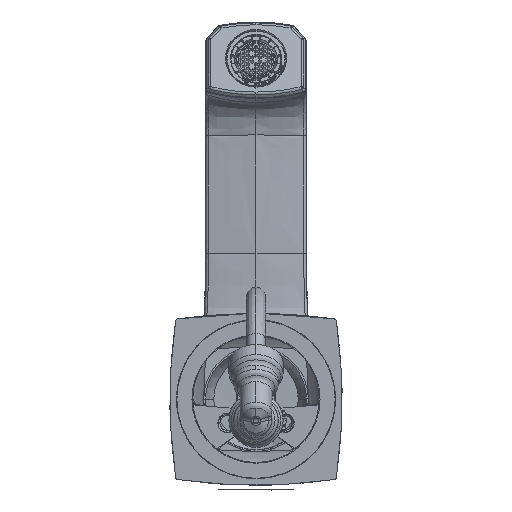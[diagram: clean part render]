
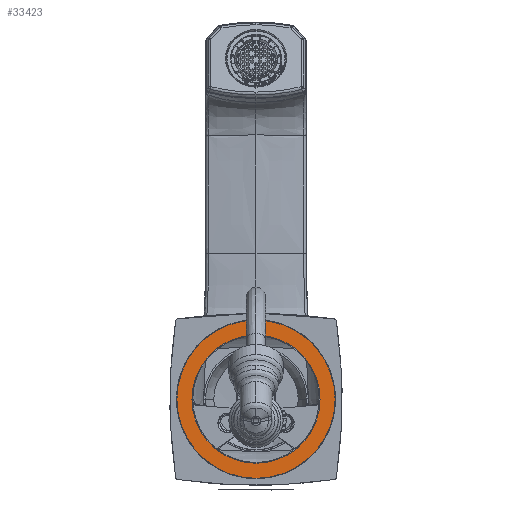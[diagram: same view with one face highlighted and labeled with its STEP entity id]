
A CAD part, front view. The second image highlights one B-rep face of the part: STEP entity #33423.
In plain terms, the highlighted planar face has unit normal (0, -1, 0).
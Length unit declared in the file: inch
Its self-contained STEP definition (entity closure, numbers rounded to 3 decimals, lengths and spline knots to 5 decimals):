
#162 = FACE_OUTER_BOUND ( 'NONE', #3416, .T. ) ;
#204 = CIRCLE ( 'NONE', #10689, 0.83661 ) ;
#3416 = EDGE_LOOP ( 'NONE', ( #10723, #58628 ) ) ;
#4500 = CARTESIAN_POINT ( 'NONE',  ( 0., -0.03543, 0. ) ) ;
#4938 = DIRECTION ( 'NONE',  ( 1., 0., 0. ) ) ;
#6280 = AXIS2_PLACEMENT_3D ( 'NONE', #34655, #25074, #34059 ) ;
#7189 = AXIS2_PLACEMENT_3D ( 'NONE', #36674, #31312, #4938 ) ;
#7648 = CARTESIAN_POINT ( 'NONE',  ( 0., -0.03543, 0.83661 ) ) ;
#8324 = ORIENTED_EDGE ( 'NONE', *, *, #44603, .F. ) ;
#9366 = DIRECTION ( 'NONE',  ( 0., -1., 0. ) ) ;
#9733 = EDGE_CURVE ( 'NONE', #15460, #21538, #45470, .T. ) ;
#10269 = VERTEX_POINT ( 'NONE', #37805 ) ;
#10549 = CARTESIAN_POINT ( 'NONE',  ( 0., -0.03543, 0. ) ) ;
#10689 = AXIS2_PLACEMENT_3D ( 'NONE', #10549, #33922, #14451 ) ;
#10723 = ORIENTED_EDGE ( 'NONE', *, *, #9733, .F. ) ;
#12364 = VERTEX_POINT ( 'NONE', #7648 ) ;
#14451 = DIRECTION ( 'NONE',  ( 0., 0., 1. ) ) ;
#15084 = EDGE_CURVE ( 'NONE', #21538, #15460, #58598, .T. ) ;
#15113 = AXIS2_PLACEMENT_3D ( 'NONE', #50367, #9366, #50083 ) ;
#15460 = VERTEX_POINT ( 'NONE', #37908 ) ;
#21538 = VERTEX_POINT ( 'NONE', #35370 ) ;
#22898 = FACE_BOUND ( 'NONE', #55380, .T. ) ;
#25074 = DIRECTION ( 'NONE',  ( 0., 1., 0. ) ) ;
#31312 = DIRECTION ( 'NONE',  ( 0., 1., 0. ) ) ;
#32597 = DIRECTION ( 'NONE',  ( 0., 0., 1. ) ) ;
#33423 = ADVANCED_FACE ( 'NONE', ( #22898, #162 ), #50412, .F. ) ;
#33922 = DIRECTION ( 'NONE',  ( 0., -1., 0. ) ) ;
#34059 = DIRECTION ( 'NONE',  ( 0., 0., 1. ) ) ;
#34655 = CARTESIAN_POINT ( 'NONE',  ( 0., -0.03543, 0. ) ) ;
#35224 = ORIENTED_EDGE ( 'NONE', *, *, #53856, .F. ) ;
#35370 = CARTESIAN_POINT ( 'NONE',  ( 0., -0.03543, -1.03346 ) ) ;
#36674 = CARTESIAN_POINT ( 'NONE',  ( 0., -0.03543, 0. ) ) ;
#37805 = CARTESIAN_POINT ( 'NONE',  ( 0., -0.03543, -0.83661 ) ) ;
#37908 = CARTESIAN_POINT ( 'NONE',  ( 0., -0.03543, 1.03346 ) ) ;
#40929 = CIRCLE ( 'NONE', #15113, 0.83661 ) ;
#44603 = EDGE_CURVE ( 'NONE', #12364, #10269, #40929, .T. ) ;
#45470 = CIRCLE ( 'NONE', #6280, 1.03346 ) ;
#46071 = DIRECTION ( 'NONE',  ( 0., 1., 0. ) ) ;
#48126 = AXIS2_PLACEMENT_3D ( 'NONE', #4500, #46071, #32597 ) ;
#50083 = DIRECTION ( 'NONE',  ( 0., 0., 1. ) ) ;
#50367 = CARTESIAN_POINT ( 'NONE',  ( 0., -0.03543, 0. ) ) ;
#50412 = PLANE ( 'NONE',  #7189 ) ;
#53856 = EDGE_CURVE ( 'NONE', #10269, #12364, #204, .T. ) ;
#55380 = EDGE_LOOP ( 'NONE', ( #8324, #35224 ) ) ;
#58598 = CIRCLE ( 'NONE', #48126, 1.03346 ) ;
#58628 = ORIENTED_EDGE ( 'NONE', *, *, #15084, .F. ) ;
